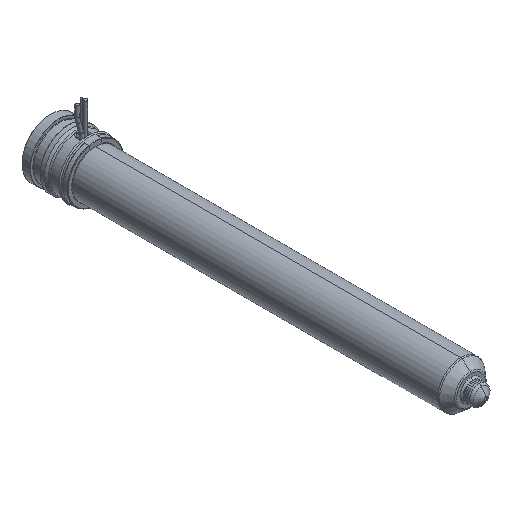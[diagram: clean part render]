
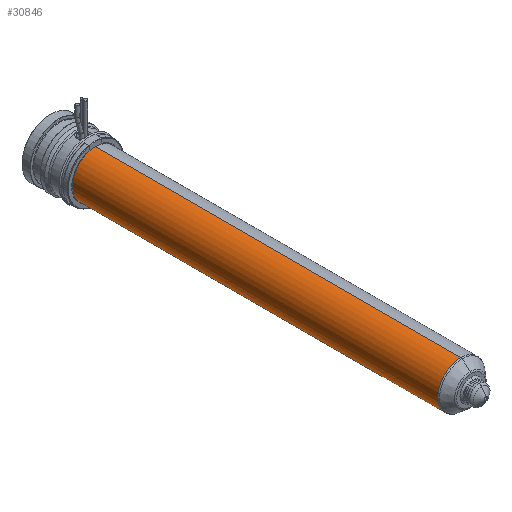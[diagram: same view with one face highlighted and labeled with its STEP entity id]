
A CAD part, isometric view. The second image highlights one B-rep face of the part: STEP entity #30846.
In plain terms, the highlighted cylindrical face has radius 12 mm (diameter 24 mm), a partial arc.
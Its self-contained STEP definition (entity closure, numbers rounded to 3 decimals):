
#30331=CARTESIAN_POINT('',(0.,-24.,0.));
#30332=DIRECTION('',(0.,1.,0.));
#30333=DIRECTION('',(0.,0.,-1.));
#30334=AXIS2_PLACEMENT_3D('',#30331,#30332,#30333);
#30339=DIRECTION('',(0.,1.,0.));
#30340=VECTOR('',#30339,189.736);
#30341=CARTESIAN_POINT('',(0.,-213.736,12.));
#30342=LINE('',#30341,#30340);
#30354=DIRECTION('',(0.,1.,0.));
#30355=VECTOR('',#30354,189.736);
#30356=CARTESIAN_POINT('',(0.,-213.736,-12.));
#30357=LINE('',#30356,#30355);
#30385=CARTESIAN_POINT('',(0.,-213.736,0.));
#30386=DIRECTION('',(0.,-1.,0.));
#30387=DIRECTION('',(0.,0.,1.));
#30388=AXIS2_PLACEMENT_3D('',#30385,#30386,#30387);
#30715=CARTESIAN_POINT('',(0.,-213.736,12.));
#30716=CARTESIAN_POINT('',(0.,-24.,12.));
#30717=VERTEX_POINT('',#30715);
#30718=VERTEX_POINT('',#30716);
#30719=CARTESIAN_POINT('',(0.,-213.736,-12.));
#30720=CARTESIAN_POINT('',(0.,-24.,-12.));
#30721=VERTEX_POINT('',#30719);
#30722=VERTEX_POINT('',#30720);
#30832=CARTESIAN_POINT('',(0.,-9.625,0.));
#30833=DIRECTION('',(0.,-1.,0.));
#30834=DIRECTION('',(0.,0.,1.));
#30835=AXIS2_PLACEMENT_3D('',#30832,#30833,#30834);
#30836=CYLINDRICAL_SURFACE('',#30835,12.);
#30838=ORIENTED_EDGE('',*,*,#30837,.F.);
#30840=ORIENTED_EDGE('',*,*,#30839,.T.);
#30842=ORIENTED_EDGE('',*,*,#30841,.T.);
#30843=ORIENTED_EDGE('',*,*,#30825,.T.);
#30844=EDGE_LOOP('',(#30838,#30840,#30842,#30843));
#30845=FACE_OUTER_BOUND('',#30844,.F.);
#30846=ADVANCED_FACE('',(#30845),#30836,.T.);
#30335=CIRCLE('',#30334,12.);
#30389=CIRCLE('',#30388,12.);
#30825=EDGE_CURVE('',#30722,#30718,#30335,.T.);
#30837=EDGE_CURVE('',#30717,#30718,#30342,.T.);
#30839=EDGE_CURVE('',#30717,#30721,#30389,.T.);
#30841=EDGE_CURVE('',#30721,#30722,#30357,.T.);
